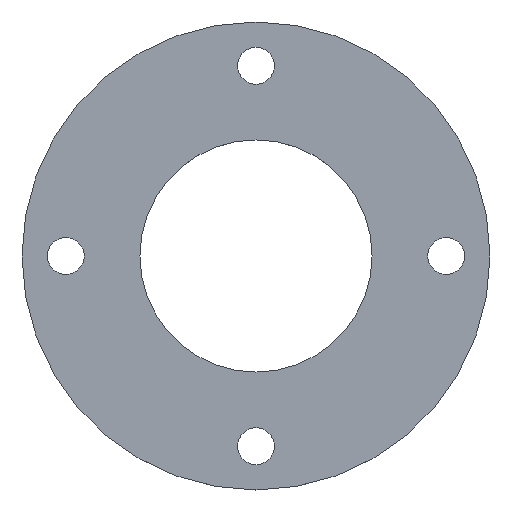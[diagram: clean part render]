
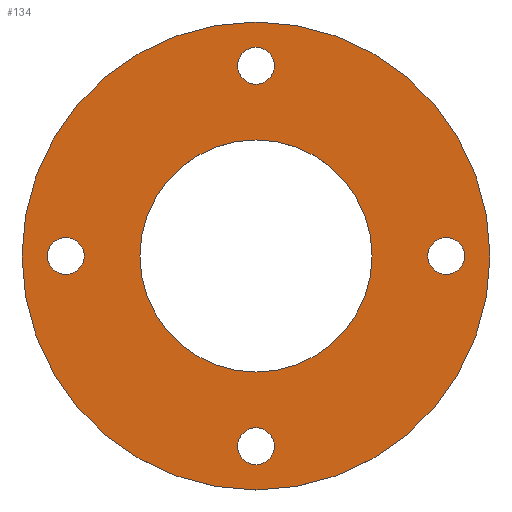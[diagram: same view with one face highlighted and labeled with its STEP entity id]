
A CAD part, top view. The second image highlights one B-rep face of the part: STEP entity #134.
In plain terms, the highlighted planar face has unit normal (0, 0, 1).
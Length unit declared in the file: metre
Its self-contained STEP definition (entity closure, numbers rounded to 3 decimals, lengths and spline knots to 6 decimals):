
#12=PLANE('',#167);
#26=ORIENTED_EDGE('',*,*,#46,.F.);
#27=ORIENTED_EDGE('',*,*,#44,.F.);
#28=ORIENTED_EDGE('',*,*,#42,.F.);
#29=ORIENTED_EDGE('',*,*,#40,.F.);
#30=ORIENTED_EDGE('',*,*,#38,.F.);
#31=ORIENTED_EDGE('',*,*,#48,.T.);
#38=EDGE_CURVE('',#50,#50,#62,.T.);
#40=EDGE_CURVE('',#52,#52,#64,.T.);
#42=EDGE_CURVE('',#54,#54,#66,.T.);
#44=EDGE_CURVE('',#56,#56,#68,.T.);
#46=EDGE_CURVE('',#58,#58,#70,.T.);
#48=EDGE_CURVE('',#60,#60,#72,.T.);
#50=VERTEX_POINT('',#214);
#52=VERTEX_POINT('',#219);
#54=VERTEX_POINT('',#224);
#56=VERTEX_POINT('',#229);
#58=VERTEX_POINT('',#234);
#60=VERTEX_POINT('',#239);
#62=CIRCLE('',#150,0.002);
#64=CIRCLE('',#153,0.002);
#66=CIRCLE('',#156,0.002);
#68=CIRCLE('',#159,0.002);
#70=CIRCLE('',#162,0.0126);
#72=CIRCLE('',#165,0.0254);
#86=EDGE_LOOP('',(#26));
#87=EDGE_LOOP('',(#27));
#88=EDGE_LOOP('',(#28));
#89=EDGE_LOOP('',(#29));
#90=EDGE_LOOP('',(#30));
#91=EDGE_LOOP('',(#31));
#110=FACE_BOUND('',#86,.T.);
#111=FACE_BOUND('',#87,.T.);
#112=FACE_BOUND('',#88,.T.);
#113=FACE_BOUND('',#89,.T.);
#114=FACE_BOUND('',#90,.T.);
#115=FACE_BOUND('',#91,.T.);
#134=ADVANCED_FACE('',(#110,#111,#112,#113,#114,#115),#12,.T.);
#150=AXIS2_PLACEMENT_3D('',#213,#173,#174);
#153=AXIS2_PLACEMENT_3D('',#218,#179,#180);
#156=AXIS2_PLACEMENT_3D('',#223,#185,#186);
#159=AXIS2_PLACEMENT_3D('',#228,#191,#192);
#162=AXIS2_PLACEMENT_3D('',#233,#197,#198);
#165=AXIS2_PLACEMENT_3D('',#238,#203,#204);
#167=AXIS2_PLACEMENT_3D('',#242,#207,#208);
#173=DIRECTION('',(0.,0.,1.));
#174=DIRECTION('',(1.,0.,0.));
#179=DIRECTION('',(0.,0.,1.));
#180=DIRECTION('',(1.,0.,0.));
#185=DIRECTION('',(0.,0.,1.));
#186=DIRECTION('',(1.,0.,0.));
#191=DIRECTION('',(0.,0.,1.));
#192=DIRECTION('',(1.,0.,0.));
#197=DIRECTION('',(0.,0.,1.));
#198=DIRECTION('',(1.,0.,0.));
#203=DIRECTION('',(0.,0.,1.));
#204=DIRECTION('',(1.,0.,0.));
#207=DIRECTION('',(0.,0.,1.));
#208=DIRECTION('',(1.,0.,0.));
#213=CARTESIAN_POINT('',(0.,0.020648,0.0008));
#214=CARTESIAN_POINT('',(0.002,0.020648,0.0008));
#218=CARTESIAN_POINT('',(-0.020648,0.,0.0008));
#219=CARTESIAN_POINT('',(-0.018648,0.,0.0008));
#223=CARTESIAN_POINT('',(0.,-0.020648,0.0008));
#224=CARTESIAN_POINT('',(0.002,-0.020648,0.0008));
#228=CARTESIAN_POINT('',(0.020648,0.,0.0008));
#229=CARTESIAN_POINT('',(0.022648,0.,0.0008));
#233=CARTESIAN_POINT('',(0.,0.,0.0008));
#234=CARTESIAN_POINT('',(0.0126,0.,0.0008));
#238=CARTESIAN_POINT('',(0.,0.,0.0008));
#239=CARTESIAN_POINT('',(0.0254,0.,0.0008));
#242=CARTESIAN_POINT('',(0.,0.,0.0008));
